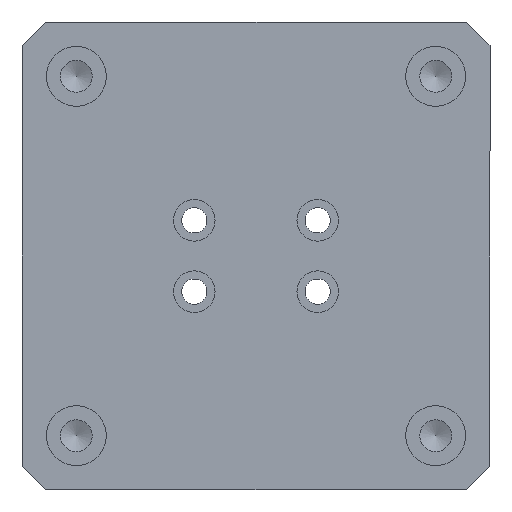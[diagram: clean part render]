
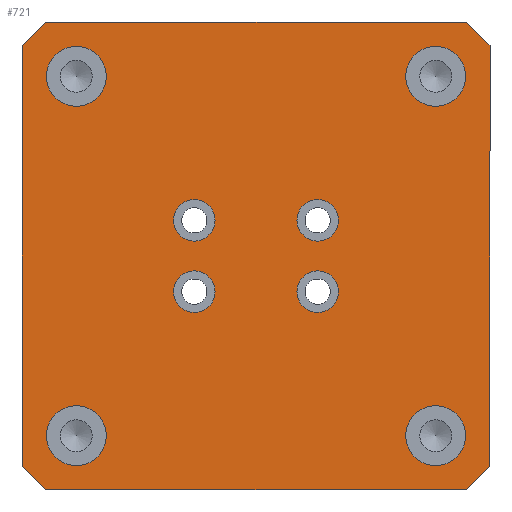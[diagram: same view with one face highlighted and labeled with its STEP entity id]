
A CAD part, front view. The second image highlights one B-rep face of the part: STEP entity #721.
In plain terms, the highlighted planar face has unit normal (0, -1, 0).
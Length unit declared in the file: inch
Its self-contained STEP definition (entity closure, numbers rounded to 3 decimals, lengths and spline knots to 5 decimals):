
#7 = FACE_BOUND ( 'NONE', #827, .T. ) ;
#32 = LINE ( 'NONE', #566, #189 ) ;
#33 = LINE ( 'NONE', #206, #1074 ) ;
#36 = VERTEX_POINT ( 'NONE', #1164 ) ;
#44 = VECTOR ( 'NONE', #666, 39.37008 ) ;
#51 = EDGE_CURVE ( 'NONE', #712, #571, #127, .T. ) ;
#54 = VERTEX_POINT ( 'NONE', #1102 ) ;
#62 = CARTESIAN_POINT ( 'NONE',  ( -2.46063, 0., -2.21063 ) ) ;
#71 = ORIENTED_EDGE ( 'NONE', *, *, #268, .F. ) ;
#74 = AXIS2_PLACEMENT_3D ( 'NONE', #208, #777, #688 ) ;
#77 = CARTESIAN_POINT ( 'NONE',  ( -0.64952, 0., -0.375 ) ) ;
#94 = FACE_BOUND ( 'NONE', #1134, .T. ) ;
#103 = ORIENTED_EDGE ( 'NONE', *, *, #194, .T. ) ;
#113 = CARTESIAN_POINT ( 'NONE',  ( -1.88976, 0., -1.88976 ) ) ;
#116 = CARTESIAN_POINT ( 'NONE',  ( -2.21063, 0., 2.46063 ) ) ;
#119 = EDGE_CURVE ( 'NONE', #377, #1184, #33, .T. ) ;
#122 = AXIS2_PLACEMENT_3D ( 'NONE', #113, #1174, #977 ) ;
#127 = LINE ( 'NONE', #1161, #632 ) ;
#146 = ORIENTED_EDGE ( 'NONE', *, *, #506, .F. ) ;
#150 = EDGE_CURVE ( 'NONE', #54, #54, #773, .T. ) ;
#151 = DIRECTION ( 'NONE',  ( 1., 0., 0. ) ) ;
#168 = DIRECTION ( 'NONE',  ( 0., -1., 0. ) ) ;
#169 = VERTEX_POINT ( 'NONE', #728 ) ;
#170 = DIRECTION ( 'NONE',  ( 0., -1., 0. ) ) ;
#172 = ORIENTED_EDGE ( 'NONE', *, *, #1103, .F. ) ;
#187 = DIRECTION ( 'NONE',  ( 0., 1., 0. ) ) ;
#189 = VECTOR ( 'NONE', #303, 39.37008 ) ;
#193 = ORIENTED_EDGE ( 'NONE', *, *, #805, .F. ) ;
#194 = EDGE_CURVE ( 'NONE', #332, #546, #914, .T. ) ;
#196 = CARTESIAN_POINT ( 'NONE',  ( 1.88976, 0., -1.88976 ) ) ;
#206 = CARTESIAN_POINT ( 'NONE',  ( 2.21063, 0., -2.46063 ) ) ;
#208 = CARTESIAN_POINT ( 'NONE',  ( -0.64952, 0., 0.375 ) ) ;
#229 = DIRECTION ( 'NONE',  ( 0., -1., 0. ) ) ;
#243 = DIRECTION ( 'NONE',  ( 0., -1., 0. ) ) ;
#244 = DIRECTION ( 'NONE',  ( 0., -1., 0. ) ) ;
#268 = EDGE_CURVE ( 'NONE', #460, #571, #1196, .T. ) ;
#273 = EDGE_CURVE ( 'NONE', #36, #36, #913, .T. ) ;
#275 = CARTESIAN_POINT ( 'NONE',  ( 2.21063, 0., -2.46063 ) ) ;
#276 = ORIENTED_EDGE ( 'NONE', *, *, #51, .T. ) ;
#288 = AXIS2_PLACEMENT_3D ( 'NONE', #196, #1137, #390 ) ;
#299 = CIRCLE ( 'NONE', #985, 0.31535 ) ;
#303 = DIRECTION ( 'NONE',  ( 0., 0., -1. ) ) ;
#309 = DIRECTION ( 'NONE',  ( -1., 0., 0. ) ) ;
#332 = VERTEX_POINT ( 'NONE', #846 ) ;
#339 = EDGE_LOOP ( 'NONE', ( #821 ) ) ;
#343 = ORIENTED_EDGE ( 'NONE', *, *, #635, .F. ) ;
#360 = CARTESIAN_POINT ( 'NONE',  ( -1.88976, 0., 1.88976 ) ) ;
#361 = VERTEX_POINT ( 'NONE', #740 ) ;
#372 = CARTESIAN_POINT ( 'NONE',  ( 1.88976, 0., -2.20511 ) ) ;
#377 = VERTEX_POINT ( 'NONE', #275 ) ;
#387 = ORIENTED_EDGE ( 'NONE', *, *, #1005, .F. ) ;
#390 = DIRECTION ( 'NONE',  ( 0., 0., -1. ) ) ;
#396 = VECTOR ( 'NONE', #710, 39.37008 ) ;
#411 = VERTEX_POINT ( 'NONE', #784 ) ;
#412 = VECTOR ( 'NONE', #650, 39.37008 ) ;
#415 = CARTESIAN_POINT ( 'NONE',  ( -2.46063, 0., 2.46063 ) ) ;
#428 = ORIENTED_EDGE ( 'NONE', *, *, #1065, .F. ) ;
#457 = CARTESIAN_POINT ( 'NONE',  ( -0.64952, 0., 0.15625 ) ) ;
#460 = VERTEX_POINT ( 'NONE', #512 ) ;
#462 = CIRCLE ( 'NONE', #1157, 0.21875 ) ;
#463 = FACE_BOUND ( 'NONE', #1055, .T. ) ;
#468 = FACE_BOUND ( 'NONE', #1111, .T. ) ;
#478 = CARTESIAN_POINT ( 'NONE',  ( -2.21063, 0., -2.46063 ) ) ;
#484 = EDGE_LOOP ( 'NONE', ( #727 ) ) ;
#488 = PLANE ( 'NONE',  #680 ) ;
#506 = EDGE_CURVE ( 'NONE', #411, #411, #853, .T. ) ;
#512 = CARTESIAN_POINT ( 'NONE',  ( -2.21063, 0., 2.46063 ) ) ;
#528 = ORIENTED_EDGE ( 'NONE', *, *, #1072, .F. ) ;
#533 = CARTESIAN_POINT ( 'NONE',  ( 1.88976, 0., 1.88976 ) ) ;
#546 = VERTEX_POINT ( 'NONE', #478 ) ;
#554 = ORIENTED_EDGE ( 'NONE', *, *, #119, .T. ) ;
#561 = DIRECTION ( 'NONE',  ( 0., 0., 1. ) ) ;
#566 = CARTESIAN_POINT ( 'NONE',  ( 2.46063, 0., -2.46063 ) ) ;
#571 = VERTEX_POINT ( 'NONE', #884 ) ;
#574 = CARTESIAN_POINT ( 'NONE',  ( 2.46063, 0., 2.21063 ) ) ;
#607 = ORIENTED_EDGE ( 'NONE', *, *, #746, .T. ) ;
#612 = AXIS2_PLACEMENT_3D ( 'NONE', #791, #229, #703 ) ;
#615 = EDGE_LOOP ( 'NONE', ( #71, #607, #862, #103, #193, #554, #172, #276 ) ) ;
#631 = VERTEX_POINT ( 'NONE', #1216 ) ;
#632 = VECTOR ( 'NONE', #962, 39.37008 ) ;
#635 = EDGE_CURVE ( 'NONE', #361, #361, #299, .T. ) ;
#637 = DIRECTION ( 'NONE',  ( 0., 0., -1. ) ) ;
#644 = VERTEX_POINT ( 'NONE', #372 ) ;
#650 = DIRECTION ( 'NONE',  ( 0., 0., 1. ) ) ;
#660 = FACE_BOUND ( 'NONE', #1112, .T. ) ;
#666 = DIRECTION ( 'NONE',  ( -0.707, 0., -0.707 ) ) ;
#680 = AXIS2_PLACEMENT_3D ( 'NONE', #770, #187, #561 ) ;
#688 = DIRECTION ( 'NONE',  ( 0., 0., -1. ) ) ;
#703 = DIRECTION ( 'NONE',  ( 0., 0., -1. ) ) ;
#710 = DIRECTION ( 'NONE',  ( 0.707, 0., -0.707 ) ) ;
#712 = VERTEX_POINT ( 'NONE', #574 ) ;
#713 = EDGE_CURVE ( 'NONE', #332, #848, #765, .T. ) ;
#721 = ADVANCED_FACE ( 'NONE', ( #468, #94, #960, #954, #463, #660, #7, #844, #1030 ), #488, .F. ) ;
#727 = ORIENTED_EDGE ( 'NONE', *, *, #273, .F. ) ;
#728 = CARTESIAN_POINT ( 'NONE',  ( -0.64952, 0., -0.59375 ) ) ;
#735 = AXIS2_PLACEMENT_3D ( 'NONE', #533, #244, #886 ) ;
#740 = CARTESIAN_POINT ( 'NONE',  ( -1.88976, 0., 1.57441 ) ) ;
#746 = EDGE_CURVE ( 'NONE', #460, #848, #1037, .T. ) ;
#755 = VECTOR ( 'NONE', #151, 39.37008 ) ;
#765 = LINE ( 'NONE', #1050, #412 ) ;
#770 = CARTESIAN_POINT ( 'NONE',  ( 0., 0., 0. ) ) ;
#773 = CIRCLE ( 'NONE', #735, 0.31535 ) ;
#777 = DIRECTION ( 'NONE',  ( 0., -1., 0. ) ) ;
#782 = CARTESIAN_POINT ( 'NONE',  ( -2.46063, 0., -2.46063 ) ) ;
#784 = CARTESIAN_POINT ( 'NONE',  ( -1.88976, 0., -1.57441 ) ) ;
#790 = CARTESIAN_POINT ( 'NONE',  ( 0.64952, 0., -0.375 ) ) ;
#791 = CARTESIAN_POINT ( 'NONE',  ( 0.64952, 0., 0.375 ) ) ;
#805 = EDGE_CURVE ( 'NONE', #377, #546, #975, .T. ) ;
#811 = DIRECTION ( 'NONE',  ( 0., 0., -1. ) ) ;
#819 = CIRCLE ( 'NONE', #863, 0.21875 ) ;
#821 = ORIENTED_EDGE ( 'NONE', *, *, #1181, .F. ) ;
#827 = EDGE_LOOP ( 'NONE', ( #343 ) ) ;
#844 = FACE_OUTER_BOUND ( 'NONE', #615, .T. ) ;
#846 = CARTESIAN_POINT ( 'NONE',  ( -2.46063, 0., -2.21063 ) ) ;
#848 = VERTEX_POINT ( 'NONE', #874 ) ;
#853 = CIRCLE ( 'NONE', #122, 0.31535 ) ;
#862 = ORIENTED_EDGE ( 'NONE', *, *, #713, .F. ) ;
#863 = AXIS2_PLACEMENT_3D ( 'NONE', #77, #170, #1013 ) ;
#874 = CARTESIAN_POINT ( 'NONE',  ( -2.46063, 0., 2.21063 ) ) ;
#884 = CARTESIAN_POINT ( 'NONE',  ( 2.21063, 0., 2.46063 ) ) ;
#886 = DIRECTION ( 'NONE',  ( 0., 0., 1. ) ) ;
#902 = EDGE_LOOP ( 'NONE', ( #1015 ) ) ;
#913 = CIRCLE ( 'NONE', #612, 0.21875 ) ;
#914 = LINE ( 'NONE', #62, #396 ) ;
#954 = FACE_BOUND ( 'NONE', #902, .T. ) ;
#960 = FACE_BOUND ( 'NONE', #484, .T. ) ;
#962 = DIRECTION ( 'NONE',  ( -0.707, 0., 0.707 ) ) ;
#975 = LINE ( 'NONE', #782, #1207 ) ;
#977 = DIRECTION ( 'NONE',  ( 0., 0., 1. ) ) ;
#979 = DIRECTION ( 'NONE',  ( 0.707, 0., 0.707 ) ) ;
#985 = AXIS2_PLACEMENT_3D ( 'NONE', #360, #168, #637 ) ;
#1005 = EDGE_CURVE ( 'NONE', #169, #169, #819, .T. ) ;
#1013 = DIRECTION ( 'NONE',  ( 0., 0., -1. ) ) ;
#1015 = ORIENTED_EDGE ( 'NONE', *, *, #150, .F. ) ;
#1030 = FACE_BOUND ( 'NONE', #339, .T. ) ;
#1037 = LINE ( 'NONE', #116, #44 ) ;
#1050 = CARTESIAN_POINT ( 'NONE',  ( -2.46063, 0., -2.46063 ) ) ;
#1055 = EDGE_LOOP ( 'NONE', ( #146 ) ) ;
#1065 = EDGE_CURVE ( 'NONE', #644, #644, #1192, .T. ) ;
#1072 = EDGE_CURVE ( 'NONE', #1200, #1200, #1139, .T. ) ;
#1074 = VECTOR ( 'NONE', #979, 39.37008 ) ;
#1083 = CARTESIAN_POINT ( 'NONE',  ( 2.46063, 0., -2.21063 ) ) ;
#1102 = CARTESIAN_POINT ( 'NONE',  ( 1.88976, 0., 2.20511 ) ) ;
#1103 = EDGE_CURVE ( 'NONE', #712, #1184, #32, .T. ) ;
#1111 = EDGE_LOOP ( 'NONE', ( #528 ) ) ;
#1112 = EDGE_LOOP ( 'NONE', ( #428 ) ) ;
#1134 = EDGE_LOOP ( 'NONE', ( #387 ) ) ;
#1137 = DIRECTION ( 'NONE',  ( 0., -1., 0. ) ) ;
#1139 = CIRCLE ( 'NONE', #74, 0.21875 ) ;
#1157 = AXIS2_PLACEMENT_3D ( 'NONE', #790, #243, #811 ) ;
#1161 = CARTESIAN_POINT ( 'NONE',  ( 2.46063, 0., 2.21063 ) ) ;
#1164 = CARTESIAN_POINT ( 'NONE',  ( 0.64952, 0., 0.15625 ) ) ;
#1174 = DIRECTION ( 'NONE',  ( 0., -1., 0. ) ) ;
#1181 = EDGE_CURVE ( 'NONE', #631, #631, #462, .T. ) ;
#1184 = VERTEX_POINT ( 'NONE', #1083 ) ;
#1192 = CIRCLE ( 'NONE', #288, 0.31535 ) ;
#1196 = LINE ( 'NONE', #415, #755 ) ;
#1200 = VERTEX_POINT ( 'NONE', #457 ) ;
#1207 = VECTOR ( 'NONE', #309, 39.37008 ) ;
#1216 = CARTESIAN_POINT ( 'NONE',  ( 0.64952, 0., -0.59375 ) ) ;
